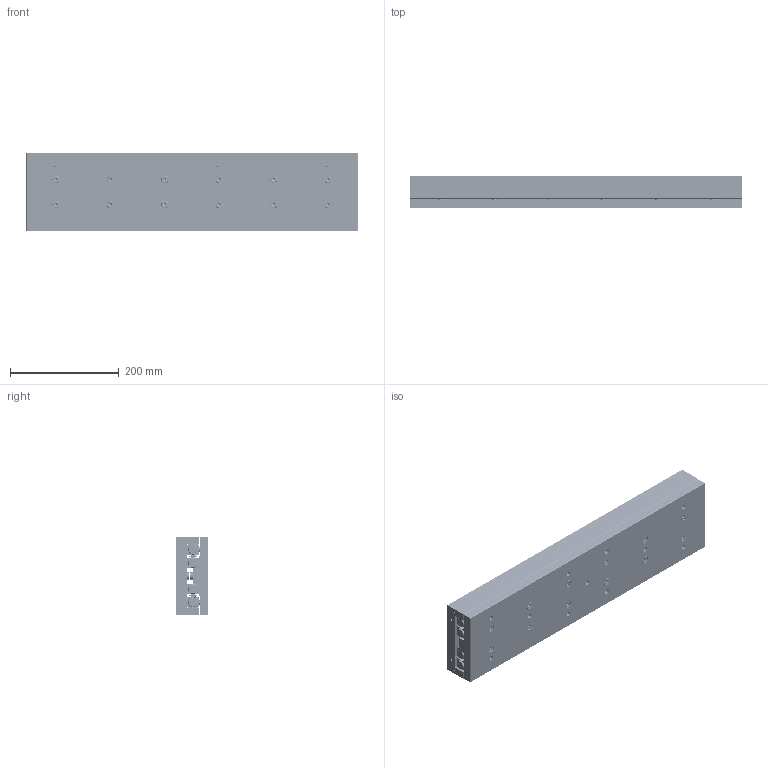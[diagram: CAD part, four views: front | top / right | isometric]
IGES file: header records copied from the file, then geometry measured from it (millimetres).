
Start section: SolidWorks IGES file using analytic representation for surfaces
Global section: file name: C:\Documents and Settings\IanO.IANOHOME\My Documents\Wix and Auto CAD Work\CAD Models\Parametric Models\Auto Models\L1020\L1020_IGES\L1020.145-610.igs; native system: SolidWorks 2009; preprocessor: SolidWorks 2009; author: IanO; date: 110922.163252; units: millimetre
Bounding box: 610 x 60 x 145 mm (x, y, z)
Surface area: 824550.8 mm2 (no closed solid volume)
Topology: 0 solids, 0 shells, 2134 faces, 31816 edges, 31756 vertices
Faces by surface type: bspline 1346, revolution 788
